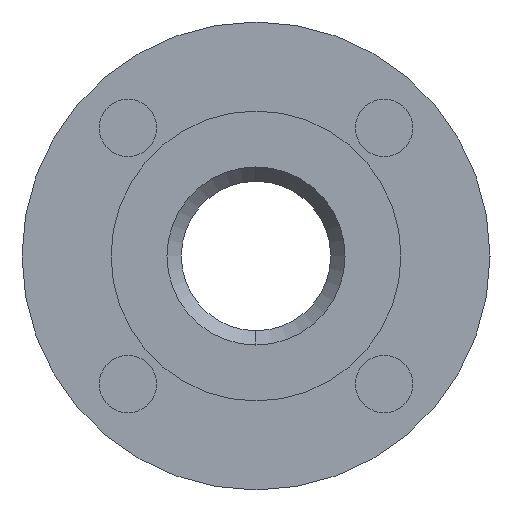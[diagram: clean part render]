
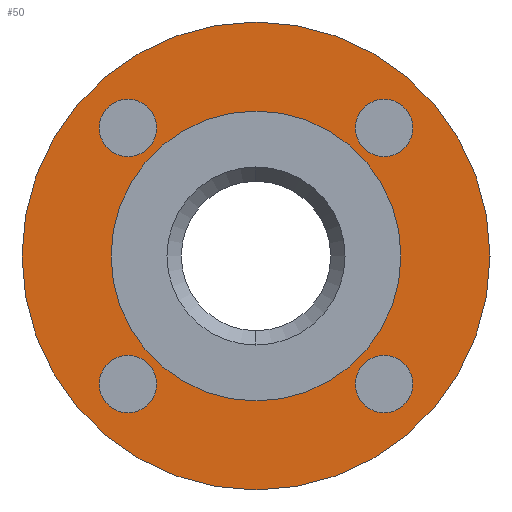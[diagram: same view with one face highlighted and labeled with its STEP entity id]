
A CAD part, left-side view. The second image highlights one B-rep face of the part: STEP entity #50.
In plain terms, the highlighted planar face has unit normal (-1, 0, 0).
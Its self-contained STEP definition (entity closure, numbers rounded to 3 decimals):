
#50=ADVANCED_FACE('',(#264,#265,#266,#267,#268,#269),#263,.F.);
#263=PLANE('',#1328);
#264=FACE_OUTER_BOUND('',#1329,.T.);
#265=FACE_BOUND('',#1330,.T.);
#266=FACE_BOUND('',#1331,.T.);
#267=FACE_BOUND('',#1332,.T.);
#268=FACE_BOUND('',#1333,.T.);
#269=FACE_BOUND('',#1334,.T.);
#1325=CARTESIAN_POINT('',(2.,-144.234,87.5));
#1326=DIRECTION('',(1.,0.,0.));
#1327=DIRECTION('',(0.,0.,-1.));
#1328=AXIS2_PLACEMENT_3D('',#1325,#1326,#1327);
#1329=EDGE_LOOP('',(#2302,#2303));
#1330=EDGE_LOOP('',(#2304,#2305));
#1331=EDGE_LOOP('',(#2306,#2307));
#1332=EDGE_LOOP('',(#2308,#2309));
#1333=EDGE_LOOP('',(#2310,#2311));
#1334=EDGE_LOOP('',(#2312,#2313));
#2302=ORIENTED_EDGE('',*,*,#2794,.T.);
#2303=ORIENTED_EDGE('',*,*,#2795,.T.);
#2304=ORIENTED_EDGE('',*,*,#2796,.F.);
#2305=ORIENTED_EDGE('',*,*,#2797,.F.);
#2306=ORIENTED_EDGE('',*,*,#2798,.F.);
#2307=ORIENTED_EDGE('',*,*,#2799,.F.);
#2308=ORIENTED_EDGE('',*,*,#2800,.F.);
#2309=ORIENTED_EDGE('',*,*,#2801,.F.);
#2310=ORIENTED_EDGE('',*,*,#2802,.F.);
#2311=ORIENTED_EDGE('',*,*,#2803,.F.);
#2312=ORIENTED_EDGE('',*,*,#2804,.F.);
#2313=ORIENTED_EDGE('',*,*,#2805,.F.);
#2794=EDGE_CURVE('',#3376,#3377,#3378,.T.);
#2795=EDGE_CURVE('',#3377,#3376,#3384,.T.);
#2796=EDGE_CURVE('',#3390,#3391,#3392,.T.);
#2797=EDGE_CURVE('',#3391,#3390,#3398,.T.);
#2798=EDGE_CURVE('',#3404,#3405,#3406,.T.);
#2799=EDGE_CURVE('',#3405,#3404,#3412,.T.);
#2800=EDGE_CURVE('',#3418,#3419,#3420,.T.);
#2801=EDGE_CURVE('',#3419,#3418,#3426,.T.);
#2802=EDGE_CURVE('',#3432,#3433,#3434,.T.);
#2803=EDGE_CURVE('',#3433,#3432,#3440,.T.);
#2804=EDGE_CURVE('',#3446,#3447,#3448,.T.);
#2805=EDGE_CURVE('',#3447,#3446,#3454,.T.);
#3376=VERTEX_POINT('',#4885);
#3377=VERTEX_POINT('',#4886);
#3378=CIRCLE('',#4890,77.5);
#3384=CIRCLE('',#4894,77.5);
#3390=VERTEX_POINT('',#4895);
#3391=VERTEX_POINT('',#4896);
#3392=CIRCLE('',#4900,9.5);
#3398=CIRCLE('',#4904,9.5);
#3404=VERTEX_POINT('',#4905);
#3405=VERTEX_POINT('',#4906);
#3406=CIRCLE('',#4910,9.5);
#3412=CIRCLE('',#4914,9.5);
#3418=VERTEX_POINT('',#4915);
#3419=VERTEX_POINT('',#4916);
#3420=CIRCLE('',#4920,9.5);
#3426=CIRCLE('',#4924,9.5);
#3432=VERTEX_POINT('',#4925);
#3433=VERTEX_POINT('',#4926);
#3434=CIRCLE('',#4930,48.);
#3440=CIRCLE('',#4934,48.);
#3446=VERTEX_POINT('',#4935);
#3447=VERTEX_POINT('',#4936);
#3448=CIRCLE('',#4940,9.5);
#3454=CIRCLE('',#4944,9.5);
#4885=CARTESIAN_POINT('',(2.,0.,77.5));
#4886=CARTESIAN_POINT('',(2.,0.,-77.5));
#4887=CARTESIAN_POINT('',(2.,0.,0.));
#4888=DIRECTION('',(-1.,0.,0.));
#4889=DIRECTION('',(0.,0.,1.));
#4890=AXIS2_PLACEMENT_3D('',#4887,#4888,#4889);
#4891=CARTESIAN_POINT('',(2.,0.,0.));
#4892=DIRECTION('',(-1.,0.,0.));
#4893=DIRECTION('',(0.,0.,1.));
#4894=AXIS2_PLACEMENT_3D('',#4891,#4892,#4893);
#4895=CARTESIAN_POINT('',(2.,-42.426,-32.926));
#4896=CARTESIAN_POINT('',(2.,-42.426,-51.926));
#4897=CARTESIAN_POINT('',(2.,-42.426,-42.426));
#4898=DIRECTION('',(-1.,0.,0.));
#4899=DIRECTION('',(0.,0.,-1.));
#4900=AXIS2_PLACEMENT_3D('',#4897,#4898,#4899);
#4901=CARTESIAN_POINT('',(2.,-42.426,-42.426));
#4902=DIRECTION('',(-1.,0.,0.));
#4903=DIRECTION('',(0.,0.,-1.));
#4904=AXIS2_PLACEMENT_3D('',#4901,#4902,#4903);
#4905=CARTESIAN_POINT('',(2.,42.426,-32.926));
#4906=CARTESIAN_POINT('',(2.,42.426,-51.926));
#4907=CARTESIAN_POINT('',(2.,42.426,-42.426));
#4908=DIRECTION('',(-1.,0.,0.));
#4909=DIRECTION('',(0.,0.,-1.));
#4910=AXIS2_PLACEMENT_3D('',#4907,#4908,#4909);
#4911=CARTESIAN_POINT('',(2.,42.426,-42.426));
#4912=DIRECTION('',(-1.,0.,0.));
#4913=DIRECTION('',(0.,0.,-1.));
#4914=AXIS2_PLACEMENT_3D('',#4911,#4912,#4913);
#4915=CARTESIAN_POINT('',(2.,42.426,51.926));
#4916=CARTESIAN_POINT('',(2.,42.426,32.926));
#4917=CARTESIAN_POINT('',(2.,42.426,42.426));
#4918=DIRECTION('',(-1.,0.,0.));
#4919=DIRECTION('',(0.,0.,-1.));
#4920=AXIS2_PLACEMENT_3D('',#4917,#4918,#4919);
#4921=CARTESIAN_POINT('',(2.,42.426,42.426));
#4922=DIRECTION('',(-1.,0.,0.));
#4923=DIRECTION('',(0.,0.,-1.));
#4924=AXIS2_PLACEMENT_3D('',#4921,#4922,#4923);
#4925=CARTESIAN_POINT('',(2.,0.,-48.));
#4926=CARTESIAN_POINT('',(2.,0.,48.));
#4927=CARTESIAN_POINT('',(2.,0.,0.));
#4928=DIRECTION('',(-1.,0.,0.));
#4929=DIRECTION('',(0.,0.,1.));
#4930=AXIS2_PLACEMENT_3D('',#4927,#4928,#4929);
#4931=CARTESIAN_POINT('',(2.,0.,0.));
#4932=DIRECTION('',(-1.,0.,0.));
#4933=DIRECTION('',(0.,0.,1.));
#4934=AXIS2_PLACEMENT_3D('',#4931,#4932,#4933);
#4935=CARTESIAN_POINT('',(2.,-42.426,51.926));
#4936=CARTESIAN_POINT('',(2.,-42.426,32.926));
#4937=CARTESIAN_POINT('',(2.,-42.426,42.426));
#4938=DIRECTION('',(-1.,0.,0.));
#4939=DIRECTION('',(0.,0.,-1.));
#4940=AXIS2_PLACEMENT_3D('',#4937,#4938,#4939);
#4941=CARTESIAN_POINT('',(2.,-42.426,42.426));
#4942=DIRECTION('',(-1.,0.,0.));
#4943=DIRECTION('',(0.,0.,-1.));
#4944=AXIS2_PLACEMENT_3D('',#4941,#4942,#4943);
